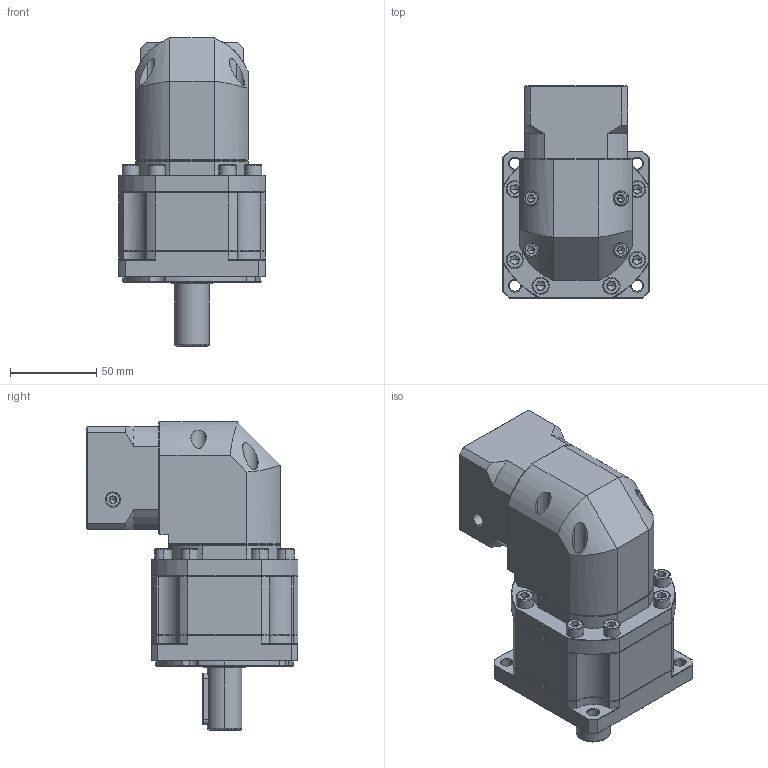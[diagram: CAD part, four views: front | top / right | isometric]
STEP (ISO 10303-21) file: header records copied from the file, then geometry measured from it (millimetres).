
FILE_DESCRIPTION (( 'STEP AP214' ), '1' );
FILE_NAME ('ZBR090-D20-L2-P2-14-50-70-M4.step', '2023-08-19T03:54:54', ( '' ), ( '' ), 'SwSTEP 2.0', 'SolidWorks 2016', '' );
FILE_SCHEMA (( 'AUTOMOTIVE_DESIGN' ));
Length unit declared in the file: millimetre
Products named in the file (1): ZBR090-D20-L2-P2-14-50-70-M4
Bounding box: 85 x 122.7 x 178.5 mm (x, y, z)
Volume: 799587.8 mm3; surface area: 99098.6 mm2
Topology: 5 solids, 5 shells, 2430 faces, 6432 edges, 4104 vertices
Faces by surface type: plane 1178, bspline 438, cylinder 437, cone 369, torus 8
Entity records: 127479 total; most frequent: CARTESIAN_POINT 43948, ORIENTED_EDGE 12772, DIRECTION 10236, EDGE_CURVE 6386, VERTEX_POINT 4104, VECTOR 4014, LINE 4014, AXIS2_PLACEMENT_3D 3111
